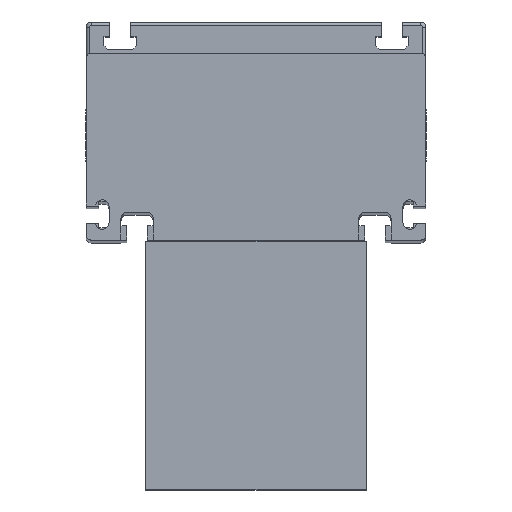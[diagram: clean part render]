
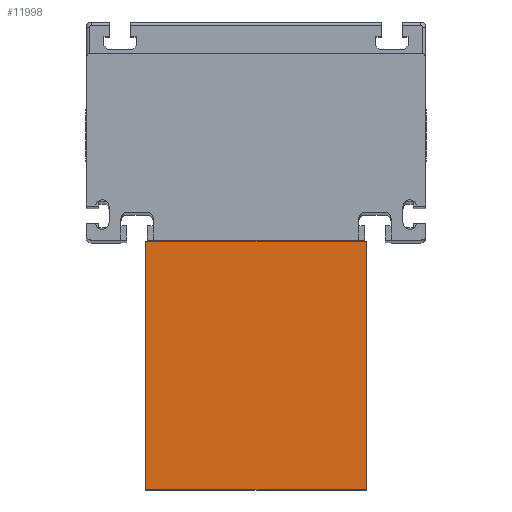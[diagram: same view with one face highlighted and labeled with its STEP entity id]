
A CAD part, top view. The second image highlights one B-rep face of the part: STEP entity #11998.
In plain terms, the highlighted planar face has unit normal (0, 0, 1).
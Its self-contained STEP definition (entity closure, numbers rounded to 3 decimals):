
#369 = CARTESIAN_POINT ( 'NONE',  ( -65., 0., 135. ) ) ;
#373 = DIRECTION ( 'NONE',  ( 0., -1., 0. ) ) ;
#774 = CARTESIAN_POINT ( 'NONE',  ( 65., 0., 135. ) ) ;
#892 = VERTEX_POINT ( 'NONE', #6785 ) ;
#1048 = ORIENTED_EDGE ( 'NONE', *, *, #4876, .F. ) ;
#1249 = VERTEX_POINT ( 'NONE', #2361 ) ;
#1453 = EDGE_CURVE ( 'NONE', #892, #7025, #6755, .T. ) ;
#1782 = CARTESIAN_POINT ( 'NONE',  ( -65., 0., 135. ) ) ;
#1943 = VECTOR ( 'NONE', #6694, 1000. ) ;
#2361 = CARTESIAN_POINT ( 'NONE',  ( 65., 0., 135. ) ) ;
#3050 = PLANE ( 'NONE',  #11683 ) ;
#3180 = VECTOR ( 'NONE', #4156, 1000. ) ;
#3275 = LINE ( 'NONE', #369, #3180 ) ;
#4156 = DIRECTION ( 'NONE',  ( 0., -1., 0. ) ) ;
#4551 = DIRECTION ( 'NONE',  ( -1., 0., 0. ) ) ;
#4876 = EDGE_CURVE ( 'NONE', #892, #1249, #8105, .T. ) ;
#5941 = CARTESIAN_POINT ( 'NONE',  ( 65., 146., 135. ) ) ;
#6694 = DIRECTION ( 'NONE',  ( -1., 0., 0. ) ) ;
#6755 = LINE ( 'NONE', #5941, #9098 ) ;
#6785 = CARTESIAN_POINT ( 'NONE',  ( 65., 146., 135. ) ) ;
#6795 = VECTOR ( 'NONE', #373, 1000. ) ;
#7025 = VERTEX_POINT ( 'NONE', #7934 ) ;
#7434 = EDGE_CURVE ( 'NONE', #7025, #8054, #3275, .T. ) ;
#7934 = CARTESIAN_POINT ( 'NONE',  ( -65., 146., 135. ) ) ;
#8054 = VERTEX_POINT ( 'NONE', #1782 ) ;
#8105 = LINE ( 'NONE', #8861, #6795 ) ;
#8335 = ORIENTED_EDGE ( 'NONE', *, *, #1453, .T. ) ;
#8550 = CARTESIAN_POINT ( 'NONE',  ( 65., 0., 135. ) ) ;
#8672 = LINE ( 'NONE', #8550, #1943 ) ;
#8836 = EDGE_LOOP ( 'NONE', ( #9027, #9943, #1048, #8335 ) ) ;
#8861 = CARTESIAN_POINT ( 'NONE',  ( 65., 0., 135. ) ) ;
#9027 = ORIENTED_EDGE ( 'NONE', *, *, #7434, .T. ) ;
#9098 = VECTOR ( 'NONE', #10547, 1000. ) ;
#9873 = EDGE_CURVE ( 'NONE', #1249, #8054, #8672, .T. ) ;
#9943 = ORIENTED_EDGE ( 'NONE', *, *, #9873, .F. ) ;
#10547 = DIRECTION ( 'NONE',  ( -1., 0., 0. ) ) ;
#11546 = FACE_OUTER_BOUND ( 'NONE', #8836, .T. ) ;
#11602 = DIRECTION ( 'NONE',  ( 0., 0., -1. ) ) ;
#11683 = AXIS2_PLACEMENT_3D ( 'NONE', #774, #11602, #4551 ) ;
#11998 = ADVANCED_FACE ( 'NONE', ( #11546 ), #3050, .F. ) ;
